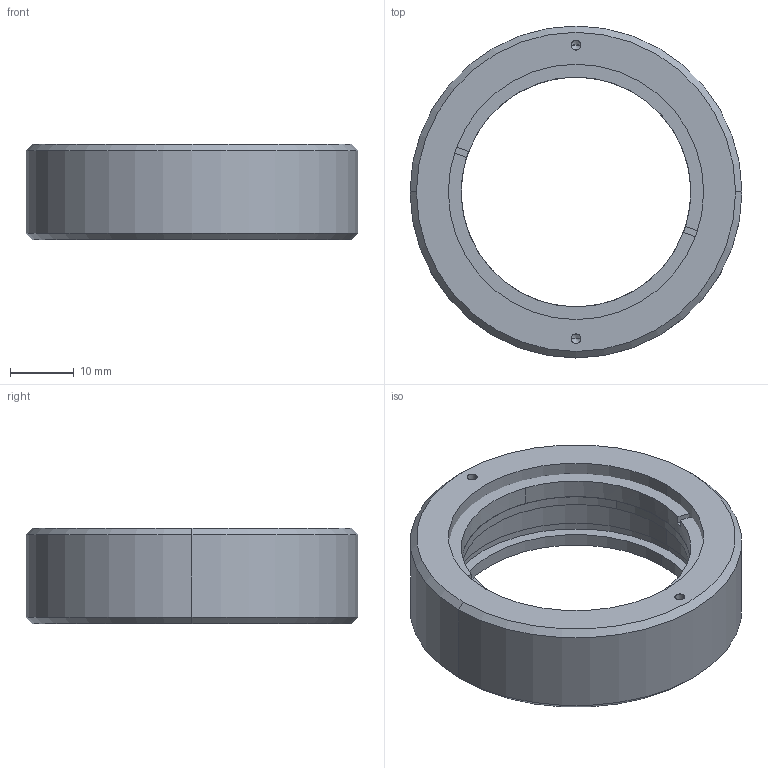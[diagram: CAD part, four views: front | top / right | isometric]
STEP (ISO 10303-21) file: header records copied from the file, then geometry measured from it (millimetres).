
FILE_DESCRIPTION (( 'STEP AP203' ), '1' );
FILE_NAME ('ACOA40-1.STEP', '2022-07-22T08:53:59', ( '' ), ( '' ), 'SwSTEP 2.0', 'SolidWorks 2021', '' );
FILE_SCHEMA (( 'CONFIG_CONTROL_DESIGN' ));
Length unit declared in the file: millimetre
Products named in the file (1): ACOA40-1
Bounding box: 52 x 52 x 15 mm (x, y, z)
Volume: 14212.3 mm3; surface area: 8424 mm2
Topology: 3 solids, 3 shells, 225 faces, 609 edges, 399 vertices
Faces by surface type: plane 188, cylinder 20, cone 17
Entity records: 7025 total; most frequent: CARTESIAN_POINT 1242, ORIENTED_EDGE 1210, DIRECTION 1114, EDGE_CURVE 605, VECTOR 540, LINE 540, VERTEX_POINT 399, AXIS2_PLACEMENT_3D 287
